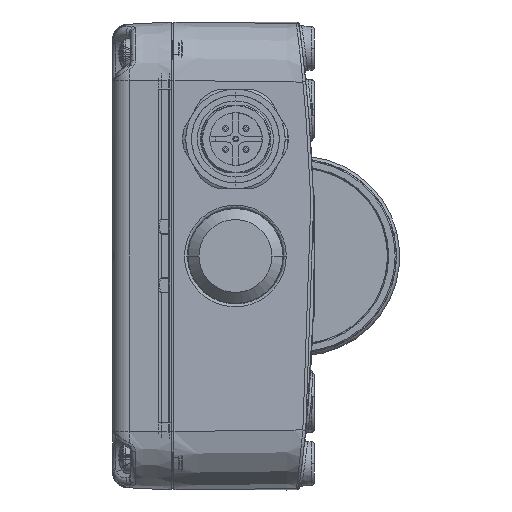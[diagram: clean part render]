
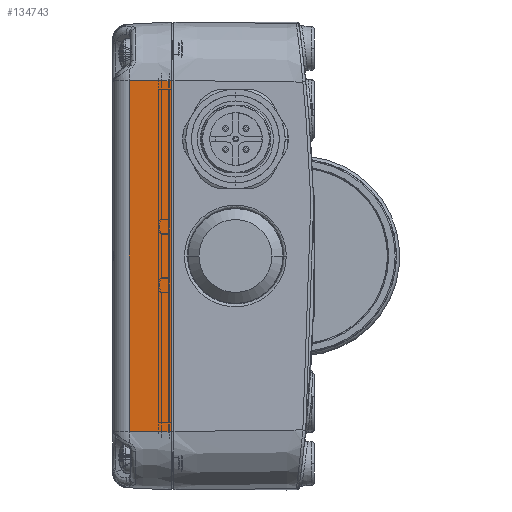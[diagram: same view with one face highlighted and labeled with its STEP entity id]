
A CAD part, left-side view. The second image highlights one B-rep face of the part: STEP entity #134743.
In plain terms, the highlighted planar face has unit normal (-0.999, 0.052, 0) as drawn and (0, 0.999, 0.052) by its records, which use the part's own axes.
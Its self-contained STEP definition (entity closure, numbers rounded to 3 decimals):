
#57962 = CARTESIAN_POINT ( 'NONE',  ( 30., 40., 0. ) ) ;
#59137 = CARTESIAN_POINT ( 'NONE',  ( 30., 39.625, 7.157 ) ) ;
#59140 = DIRECTION ( 'NONE',  ( 0., 0.052, -0.999 ) ) ;
#59142 = VECTOR ( 'NONE', #59140, 1000. ) ;
#59144 = CARTESIAN_POINT ( 'NONE',  ( 30., 39.607, 7.493 ) ) ;
#59173 = LINE ( 'NONE', #59144, #59142 ) ;
#60044 = CARTESIAN_POINT ( 'NONE',  ( -30., 40., 0. ) ) ;
#60047 = DIRECTION ( 'NONE',  ( 0., -0.052, 0.999 ) ) ;
#60048 = VECTOR ( 'NONE', #60047, 1000. ) ;
#60049 = CARTESIAN_POINT ( 'NONE',  ( -30., 39.607, 7.493 ) ) ;
#60050 = LINE ( 'NONE', #60049, #60048 ) ;
#60078 = CARTESIAN_POINT ( 'NONE',  ( -30., 39.625, 7.157 ) ) ;
#68871 = DIRECTION ( 'NONE',  ( -1., 0., 0. ) ) ;
#68872 = VECTOR ( 'NONE', #68871, 1000. ) ;
#68873 = CARTESIAN_POINT ( 'NONE',  ( 33.411, 40., 0. ) ) ;
#68874 = LINE ( 'NONE', #68873, #68872 ) ;
#72752 = DIRECTION ( 'NONE',  ( -1., 0., 0. ) ) ;
#72753 = VECTOR ( 'NONE', #72752, 1000. ) ;
#72754 = CARTESIAN_POINT ( 'NONE',  ( 30., 39.625, 7.157 ) ) ;
#72761 = LINE ( 'NONE', #72754, #72753 ) ;
#73091 = DIRECTION ( 'NONE',  ( 0., -0.052, 0.999 ) ) ;
#73092 = DIRECTION ( 'NONE',  ( 0., 0.999, 0.052 ) ) ;
#73093 = CARTESIAN_POINT ( 'NONE',  ( 33.411, 39.607, 7.493 ) ) ;
#73094 = AXIS2_PLACEMENT_3D ( 'NONE', #73093, #73092, #73091 ) ;
#73099 = FACE_OUTER_BOUND ( 'NONE', #134746, .T. ) ;
#73101 = PLANE ( 'NONE',  #73094 ) ;
#130469 = VERTEX_POINT ( 'NONE', #57962 ) ;
#130736 = EDGE_CURVE ( 'NONE', #130740, #130469, #59173, .T. ) ;
#130740 = VERTEX_POINT ( 'NONE', #59137 ) ;
#130895 = VERTEX_POINT ( 'NONE', #60078 ) ;
#130904 = EDGE_CURVE ( 'NONE', #130908, #130895, #60050, .T. ) ;
#130908 = VERTEX_POINT ( 'NONE', #60044 ) ;
#133200 = EDGE_CURVE ( 'NONE', #130469, #130908, #68874, .T. ) ;
#134595 = ORIENTED_EDGE ( 'NONE', *, *, #134597, .F. ) ;
#134597 = EDGE_CURVE ( 'NONE', #130740, #130895, #72761, .T. ) ;
#134599 = ORIENTED_EDGE ( 'NONE', *, *, #130736, .T. ) ;
#134600 = ORIENTED_EDGE ( 'NONE', *, *, #133200, .T. ) ;
#134601 = ORIENTED_EDGE ( 'NONE', *, *, #130904, .T. ) ;
#134743 = ADVANCED_FACE ( 'NONE', ( #73099 ), #73101, .T. ) ;
#134746 = EDGE_LOOP ( 'NONE', ( #134595, #134599, #134600, #134601 ) ) ;
